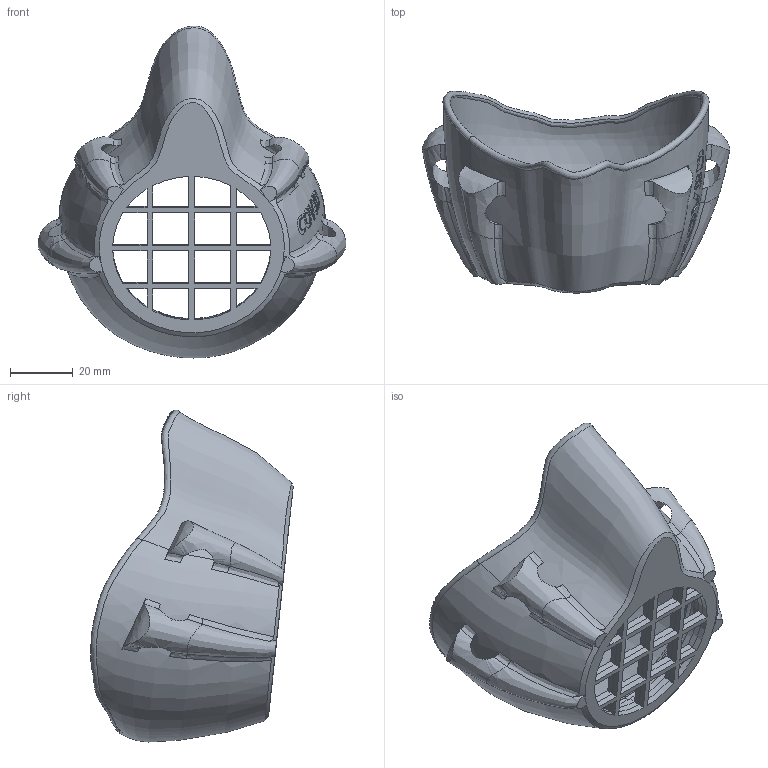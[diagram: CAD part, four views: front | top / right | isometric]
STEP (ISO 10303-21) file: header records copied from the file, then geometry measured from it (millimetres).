
FILE_DESCRIPTION(/* description */ (''),/* implementation_level */ '2;1');
FILE_NAME(/* name */ 'XS-CHI~2',/* time_stamp */ '2020-04-10T22:09:16+03:00',/* author */ (''),/* organization */ (''),/* preprocessor_version */ 'ST-DEVELOPER v16.5',/* originating_system */ '',/* authorisation */ '');
FILE_SCHEMA (('AUTOMOTIVE_DESIGN'));
Length unit declared in the file: millimetre
Products named in the file (1): Document
Bounding box: 98.03 x 64.45 x 105.7 mm (x, y, z)
Volume: 36338.7 mm3; surface area: 37081.3 mm2
Topology: 1 solids, 1 shells, 312 faces, 797 edges, 489 vertices
Faces by surface type: bspline 209, plane 103
Entity records: 184217 total; most frequent: CARTESIAN_POINT 179229, ORIENTED_EDGE 1594, EDGE_CURVE 797, B_SPLINE_CURVE_WITH_KNOTS 625, VERTEX_POINT 489, EDGE_LOOP 354, ADVANCED_FACE 312, FACE_OUTER_BOUND 312
